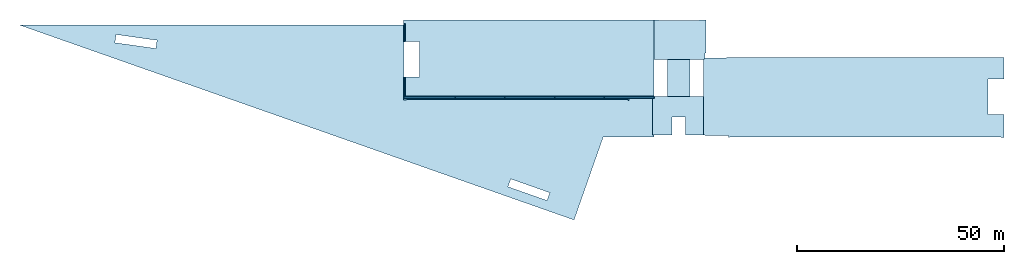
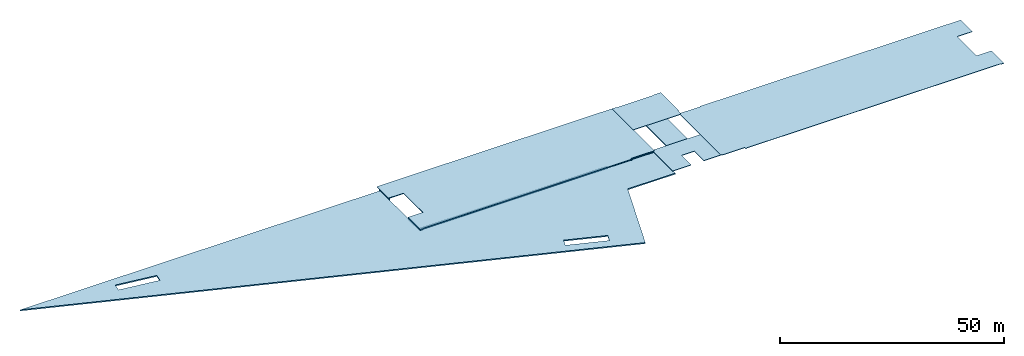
# One storey: 13 slabs.
"""IFC2X3 building model written with IfcOpenShell, lengths in millimetres."""

from ifc_helpers import new_model, si_unit, origin, place, context, project, spatial, faceted_brep, material, element, save


model = new_model("IFC2X3")

# Units and contexts
context_of_model = context(None, 3, precision=1e-05, world=origin())
ifc_project = project(units=[si_unit("LENGTHUNIT", "METRE", prefix="MILLI")], contexts=[context_of_model])

# Building, storey
building = spatial("IfcBuilding", under=ifc_project, Name="Building", CompositionType="ELEMENT")
storey = spatial("IfcBuildingStorey", under=building, Name="FL2-PLT", CompositionType="ELEMENT")

# Slabs
ifc_material_1 = material(Name="C4000")
slab_1_placement = place(None, origin())
element("IfcSlab", 1, at=slab_1_placement, inside=storey, material=ifc_material_1, Name="Floor18", PredefinedType="FLOOR", context=context_of_model, shape_type="Brep", body=[
    faceted_brep([(-12263.6, 8250.0, 3800.0), (0.0, 8250.0, 3800.0), (0.0, 8250.0, 4104.8), (-12263.6, 8250.0, 4104.8), (0.0, 9000.0, 3800.0), (0.0, 9000.0, 4104.8), (0.0, 16000.0, 3800.0), (0.0, 16000.0, 4104.8), (0.0, 18000.0, 3800.0), (0.0, 18000.0, 4104.8), (-60418.0, 18000.0, 3800.0), (-60418.0, 18000.0, 4104.8), (-60418.0, 22700.0, 3800.0), (-60418.0, 22700.0, 4104.8), (-60418.0, 31300.0, 3800.0), (-60418.0, 31300.0, 4104.8), (-60418.0, 35238.0, 3800.0), (-60418.0, 35238.0, 4104.8), (-153083.8, 35238.0, 3800.0), (-153083.8, 35238.0, 4104.8), (-19307.1, -11787.2, 3800.0), (-19307.1, -11787.2, 4104.8), (-120278.4, 29623.9, 3800.0), (-130154.0, 31011.8, 3800.0), (-130154.0, 31011.8, 4104.8), (-120278.4, 29623.9, 4104.8), (-129875.7, 32992.4, 3800.0), (-129875.7, 32992.4, 4104.8), (-120000.0, 31604.4, 3800.0), (-120000.0, 31604.4, 4104.8), (-25163.3, -5195.26, 3800.0), (-25826.4, -7082.15, 3800.0), (-25826.4, -7082.15, 4104.8), (-25163.3, -5195.26, 4104.8), (-35260.8, -3766.89, 3800.0), (-35260.8, -3766.89, 4104.8), (-34597.8, -1880.0, 3800.0), (-34597.8, -1880.0, 4104.8)], [[[0, 1, 2, 3]], [[1, 4, 5, 2]], [[4, 6, 7, 5]], [[6, 8, 9, 7]], [[8, 10, 11, 9]], [[10, 12, 13, 11]], [[12, 14, 15, 13]], [[14, 16, 17, 15]], [[16, 18, 19, 17]], [[18, 20, 21, 19]], [[20, 0, 3, 21]], [[22, 23, 24, 25]], [[23, 26, 27, 24]], [[26, 28, 29, 27]], [[28, 22, 25, 29]], [[30, 31, 32, 33]], [[31, 34, 35, 32]], [[34, 36, 37, 35]], [[36, 30, 33, 37]], [[3, 2, 5, 7, 9, 11, 13, 15, 17, 19, 21], [25, 24, 27, 29], [33, 32, 35, 37]], [[0, 20, 18, 16, 14, 12, 10, 8, 6, 4, 1], [22, 28, 26, 23], [30, 36, 34, 31]]]),
])
ifc_material_2 = material(Name="C4000")
slab_2_placement = place(None, origin())
element("IfcSlab", 2, at=slab_2_placement, inside=storey, material=ifc_material_2, Name="Floor27", PredefinedType="FLOOR", context=context_of_model, shape_type="Brep", body=[
    faceted_brep([(3300.0, 18000.0, 4296.8), (8700.0, 18000.0, 4296.8), (8700.0, 18000.0, 4500.0), (3300.0, 18000.0, 4500.0), (8700.0, 27000.0, 4296.8), (8700.0, 27000.0, 4500.0), (3300.0, 27000.0, 4296.8), (3300.0, 27000.0, 4500.0)], [[[0, 1, 2, 3]], [[1, 4, 5, 2]], [[4, 6, 7, 5]], [[6, 0, 3, 7]], [[3, 2, 5, 7]], [[0, 6, 4, 1]]]),
])
ifc_material_3 = material(Name="C4000")
slab_3_placement = place(None, origin())
element("IfcSlab", 3, at=slab_3_placement, inside=storey, material=ifc_material_3, Name="Floor34", PredefinedType="FLOOR", context=context_of_model, shape_type="Brep", body=[
    faceted_brep([(0.0, 27000.0, 4296.8), (0.0, 36500.0, 4296.8), (0.0, 36500.0, 4500.0), (0.0, 27000.0, 4500.0), (-60500.0, 36500.0, 4296.8), (-60500.0, 36500.0, 4500.0), (-60500.0, 31300.0, 4296.8), (-60500.0, 31300.0, 4500.0), (-56650.0, 31300.0, 4296.8), (-56650.0, 31300.0, 4500.0), (-56650.0, 22700.0, 4296.8), (-56650.0, 22700.0, 4500.0), (-60500.0, 22700.0, 4296.8), (-60500.0, 22700.0, 4500.0), (-60500.0, 17150.0, 4296.8), (-60500.0, 17150.0, 4500.0), (-59775.0, 17150.0, 4296.8), (-59775.0, 17150.0, 4500.0), (-59775.0, 17300.0, 4296.8), (-59775.0, 17300.0, 4500.0), (-6258.0, 17300.0, 4296.8), (-6258.0, 17300.0, 4500.0), (-6258.0, 17117.0, 4296.8), (-6258.0, 17117.0, 4500.0), (-6038.0, 17117.0, 4296.8), (-6038.0, 17117.0, 4500.0), (-6038.0, 17635.0, 4296.8), (-6038.0, 17635.0, 4500.0), (-6036.97, 17635.0, 4296.8), (-6036.97, 17635.0, 4500.0), (0.0, 17635.0, 4296.8), (0.0, 17635.0, 4500.0)], [[[0, 1, 2, 3]], [[1, 4, 5, 2]], [[4, 6, 7, 5]], [[6, 8, 9, 7]], [[8, 10, 11, 9]], [[10, 12, 13, 11]], [[12, 14, 15, 13]], [[14, 16, 17, 15]], [[16, 18, 19, 17]], [[18, 20, 21, 19]], [[20, 22, 23, 21]], [[22, 24, 25, 23]], [[24, 26, 27, 25]], [[26, 28, 29, 27]], [[28, 30, 31, 29]], [[30, 0, 3, 31]], [[3, 2, 5, 7, 9, 11, 13, 15, 17, 19, 21, 23, 25, 27, 29, 31]], [[0, 30, 28, 26, 24, 22, 20, 18, 16, 14, 12, 10, 8, 6, 4, 1]]]),
])
ifc_material_4 = material(Name="C3000")
slab_4_placement = place(None, origin())
element("IfcSlab", 4, at=slab_4_placement, inside=storey, material=ifc_material_4, Name="Floor42", PredefinedType="FLOOR", context=context_of_model, shape_type="Brep", body=[
    faceted_brep([(12000.0, 8775.0, 4373.0), (12000.0, 18000.0, 4373.0), (12000.0, 18000.0, 4500.0), (12000.0, 8775.0, 4500.0), (0.0, 18000.0, 4373.0), (0.0, 18000.0, 4500.0), (0.0, 17635.0, 4373.0), (0.0, 17635.0, 4500.0), (-400.0, 17635.0, 4373.0), (-400.0, 17635.0, 4500.0), (-400.0, 8775.0, 4373.0), (-400.0, 8775.0, 4500.0), (4351.0, 8775.0, 4373.0), (4351.0, 8775.0, 4500.0), (4351.0, 13020.0, 4373.0), (4351.0, 13020.0, 4500.0), (7649.0, 13020.0, 4373.0), (7649.0, 13020.0, 4500.0), (7649.0, 8775.0, 4373.0), (7649.0, 8775.0, 4500.0)], [[[0, 1, 2, 3]], [[1, 4, 5, 2]], [[4, 6, 7, 5]], [[6, 8, 9, 7]], [[8, 10, 11, 9]], [[10, 12, 13, 11]], [[12, 14, 15, 13]], [[14, 16, 17, 15]], [[16, 18, 19, 17]], [[18, 0, 3, 19]], [[3, 2, 5, 7, 9, 11, 13, 15, 17, 19]], [[0, 18, 16, 14, 12, 10, 8, 6, 4, 1]]]),
])
ifc_material_5 = material(Name="C4000")
slab_5_placement = place(None, origin())
element("IfcSlab", 5, at=slab_5_placement, inside=storey, material=ifc_material_5, Name="Wall198", PredefinedType="FLOOR", context=context_of_model, shape_type="Brep", body=[
    faceted_brep([(-60418.0, 31300.0, 3800.0), (-60418.0, 35619.0, 3800.0), (-60113.2, 35619.0, 3800.0), (-60113.2, 31300.0, 3800.0), (-60418.0, 35619.0, 4296.8), (-60113.2, 35619.0, 4296.8), (-60418.0, 31300.0, 4296.8), (-60113.2, 31300.0, 4296.8)], [[[0, 1, 2, 3]], [[1, 4, 5, 2]], [[4, 6, 7, 5]], [[6, 0, 3, 7]], [[3, 2, 5, 7]], [[0, 6, 4, 1]]]),
])
ifc_material_6 = material(Name="C4000")
slab_6_placement = place(None, origin())
element("IfcSlab", 6, at=slab_6_placement, inside=storey, material=ifc_material_6, Name="Wall199", PredefinedType="FLOOR", context=context_of_model, shape_type="Brep", body=[
    faceted_brep([(-60418.0, 18076.2, 3800.0), (-60418.0, 22700.0, 3800.0), (-60113.2, 22700.0, 3800.0), (-60113.2, 18076.2, 3800.0), (-60418.0, 22700.0, 4296.8), (-60113.2, 22700.0, 4296.8), (-60418.0, 18076.2, 4296.8), (-60113.2, 18076.2, 4296.8)], [[[0, 1, 2, 3]], [[1, 4, 5, 2]], [[4, 6, 7, 5]], [[6, 0, 3, 7]], [[3, 2, 5, 7]], [[0, 6, 4, 1]]]),
])
ifc_material_7 = material(Name="C3000")
slab_7_placement = place(None, origin())
element("IfcSlab", 7, at=slab_7_placement, inside=storey, material=ifc_material_7, Name="Wall206", PredefinedType="FLOOR", context=context_of_model, shape_type="Brep", body=[
    faceted_brep([(12365.0, 27365.0, 4373.0), (12000.0, 27000.0, 4373.0), (12000.0, 27000.0, 4500.0), (12365.0, 27365.0, 4500.0), (12000.0, 18000.0, 4373.0), (12000.0, 18000.0, 4500.0), (12000.0, 8775.0, 4373.0), (12000.0, 8775.0, 4500.0), (12365.0, 8772.99, 4373.0), (12365.0, 8772.99, 4500.0), (12365.0, 8635.0, 4373.0), (12365.0, 8635.0, 4500.0), (18038.0, 8635.0, 4373.0), (18038.0, 8635.0, 4500.0), (18038.0, 8117.0, 4373.0), (18038.0, 8117.0, 4500.0), (18258.0, 8117.0, 4373.0), (18258.0, 8117.0, 4500.0), (18258.0, 8300.0, 4373.0), (18258.0, 8300.0, 4500.0), (83775.0, 8300.0, 4373.0), (83775.0, 8300.0, 4500.0), (83775.0, 8150.0, 4373.0), (83775.0, 8150.0, 4500.0), (84500.0, 8150.0, 4373.0), (84500.0, 8150.0, 4500.0), (84500.8, 8300.0, 4373.0), (84500.8, 8300.0, 4500.0), (84500.8, 8300.0, 4373.0), (84500.8, 8300.0, 4500.0), (84500.0, 13700.0, 4373.0), (84500.0, 13700.0, 4500.0), (80650.0, 13700.0, 4373.0), (80650.0, 13700.0, 4500.0), (80650.0, 22300.0, 4373.0), (80650.0, 22300.0, 4500.0), (84500.0, 22300.0, 4373.0), (84500.0, 22300.0, 4500.0), (84500.0, 24000.0, 4373.0), (84500.0, 24000.0, 4500.0), (84500.0, 27500.0, 4373.0), (84500.0, 27500.0, 4500.0), (59000.0, 27500.0, 4373.0), (59000.0, 27500.0, 4500.0), (17500.0, 27500.0, 4373.0), (17500.0, 27500.0, 4500.0), (17500.0, 27365.0, 4373.0), (17500.0, 27365.0, 4500.0)], [[[0, 1, 2, 3]], [[1, 4, 5, 2]], [[4, 6, 7, 5]], [[6, 8, 9, 7]], [[8, 10, 11, 9]], [[10, 12, 13, 11]], [[12, 14, 15, 13]], [[14, 16, 17, 15]], [[16, 18, 19, 17]], [[18, 20, 21, 19]], [[20, 22, 23, 21]], [[22, 24, 25, 23]], [[24, 26, 27, 25]], [[26, 28, 29, 27]], [[28, 30, 31, 29]], [[30, 32, 33, 31]], [[32, 34, 35, 33]], [[34, 36, 37, 35]], [[36, 38, 39, 37]], [[38, 40, 41, 39]], [[40, 42, 43, 41]], [[42, 44, 45, 43]], [[44, 46, 47, 45]], [[46, 0, 3, 47]], [[3, 2, 5, 7, 9, 11, 13, 15, 17, 19, 21, 23, 25, 27, 29, 31, 33, 35, 37, 39, 41, 43, 45, 47]], [[0, 46, 44, 42, 40, 38, 36, 34, 32, 30, 28, 26, 24, 22, 20, 18, 16, 14, 12, 10, 8, 6, 4, 1]]]),
])
ifc_material_8 = material(Name="C3000")
slab_8_placement = place(None, origin())
element("IfcSlab", 8, at=slab_8_placement, inside=storey, material=ifc_material_8, Name="Wall207", PredefinedType="FLOOR", context=context_of_model, shape_type="Brep", body=[
    faceted_brep([(12365.0, 27365.0, 4373.0), (12365.3, 28500.0, 4373.0), (12365.3, 28500.0, 4500.0), (12365.0, 27365.0, 4500.0), (12500.0, 28500.0, 4373.0), (12500.0, 28500.0, 4500.0), (12500.0, 36500.0, 4373.0), (12500.0, 36500.0, 4500.0), (10827.0, 36500.0, 4373.0), (10827.0, 36500.0, 4500.0), (10827.0, 36377.0, 4373.0), (10827.0, 36377.0, 4500.0), (1173.0, 36377.0, 4373.0), (1173.0, 36377.0, 4500.0), (1173.0, 36500.0, 4373.0), (1173.0, 36500.0, 4500.0), (0.0, 36500.0, 4373.0), (0.0, 36500.0, 4500.0), (0.0, 27000.0, 4373.0), (0.0, 27000.0, 4500.0), (12000.0, 27000.0, 4373.0), (12000.0, 27000.0, 4500.0)], [[[0, 1, 2, 3]], [[1, 4, 5, 2]], [[4, 6, 7, 5]], [[6, 8, 9, 7]], [[8, 10, 11, 9]], [[10, 12, 13, 11]], [[12, 14, 15, 13]], [[14, 16, 17, 15]], [[16, 18, 19, 17]], [[18, 20, 21, 19]], [[20, 0, 3, 21]], [[3, 2, 5, 7, 9, 11, 13, 15, 17, 19, 21]], [[0, 20, 18, 16, 14, 12, 10, 8, 6, 4, 1]]]),
])
ifc_material_9 = material(Name="C4000")
slab_9_placement = place(None, origin())
element("IfcSlab", 9, at=slab_9_placement, inside=storey, material=ifc_material_9, Name="Wall213", PredefinedType="FLOOR", context=context_of_model, shape_type="Brep", body=[
    faceted_brep([(-60419.1, 18076.2, 4296.8), (-60419.1, 18076.2, 3800.0), (-60419.1, 17619.0, 3800.0), (-60419.1, 17619.0, 4296.8), (-48000.0, 18076.2, 3800.0), (-48000.0, 17619.0, 3800.0), (-48000.0, 18076.2, 4296.8), (-48000.0, 17619.0, 4296.8)], [[[0, 1, 2, 3]], [[1, 4, 5, 2]], [[4, 6, 7, 5]], [[6, 0, 3, 7]], [[3, 2, 5, 7]], [[0, 6, 4, 1]]]),
])
ifc_material_10 = material(Name="C4000")
slab_10_placement = place(None, origin())
element("IfcSlab", 10, at=slab_10_placement, inside=storey, material=ifc_material_10, Name="Wall214", PredefinedType="FLOOR", context=context_of_model, shape_type="Brep", body=[
    faceted_brep([(-48000.0, 18076.2, 4296.8), (-48000.0, 18076.2, 3800.0), (-48000.0, 17619.0, 3800.0), (-48000.0, 17619.0, 4296.8), (-36000.0, 18076.2, 3800.0), (-36000.0, 17619.0, 3800.0), (-36000.0, 18076.2, 4296.8), (-36000.0, 17619.0, 4296.8)], [[[0, 1, 2, 3]], [[1, 4, 5, 2]], [[4, 6, 7, 5]], [[6, 0, 3, 7]], [[3, 2, 5, 7]], [[0, 6, 4, 1]]]),
])
ifc_material_11 = material(Name="C4000")
slab_11_placement = place(None, origin())
element("IfcSlab", 11, at=slab_11_placement, inside=storey, material=ifc_material_11, Name="Wall215", PredefinedType="FLOOR", context=context_of_model, shape_type="Brep", body=[
    faceted_brep([(-36000.0, 18076.2, 4296.8), (-36000.0, 18076.2, 3800.0), (-36000.0, 17619.0, 3800.0), (-36000.0, 17619.0, 4296.8), (-24000.0, 18076.2, 3800.0), (-24000.0, 17619.0, 3800.0), (-24000.0, 18076.2, 4296.8), (-24000.0, 17619.0, 4296.8)], [[[0, 1, 2, 3]], [[1, 4, 5, 2]], [[4, 6, 7, 5]], [[6, 0, 3, 7]], [[3, 2, 5, 7]], [[0, 6, 4, 1]]]),
])
ifc_material_12 = material(Name="C4000")
slab_12_placement = place(None, origin())
element("IfcSlab", 12, at=slab_12_placement, inside=storey, material=ifc_material_12, Name="Wall216", PredefinedType="FLOOR", context=context_of_model, shape_type="Brep", body=[
    faceted_brep([(-24000.0, 18076.2, 4296.8), (-24000.0, 18076.2, 3800.0), (-24000.0, 17619.0, 3800.0), (-24000.0, 17619.0, 4296.8), (-12000.0, 18076.2, 3800.0), (-12000.0, 17619.0, 3800.0), (-12000.0, 18076.2, 4296.8), (-12000.0, 17619.0, 4296.8)], [[[0, 1, 2, 3]], [[1, 4, 5, 2]], [[4, 6, 7, 5]], [[6, 0, 3, 7]], [[3, 2, 5, 7]], [[0, 6, 4, 1]]]),
])
ifc_material_13 = material(Name="C4000")
slab_13_placement = place(None, origin())
element("IfcSlab", 13, at=slab_13_placement, inside=storey, material=ifc_material_13, Name="Wall217", PredefinedType="FLOOR", context=context_of_model, shape_type="Brep", body=[
    faceted_brep([(-12000.0, 18076.2, 4296.8), (-12000.0, 18076.2, 3800.0), (-12000.0, 17619.0, 3800.0), (-12000.0, 17619.0, 4296.8), (0.0, 18076.2, 3800.0), (0.0, 17619.0, 3800.0), (0.0, 18076.2, 4296.8), (0.0, 17619.0, 4296.8)], [[[0, 1, 2, 3]], [[1, 4, 5, 2]], [[4, 6, 7, 5]], [[6, 0, 3, 7]], [[3, 2, 5, 7]], [[0, 6, 4, 1]]]),
])

save(model, "model.ifc")
